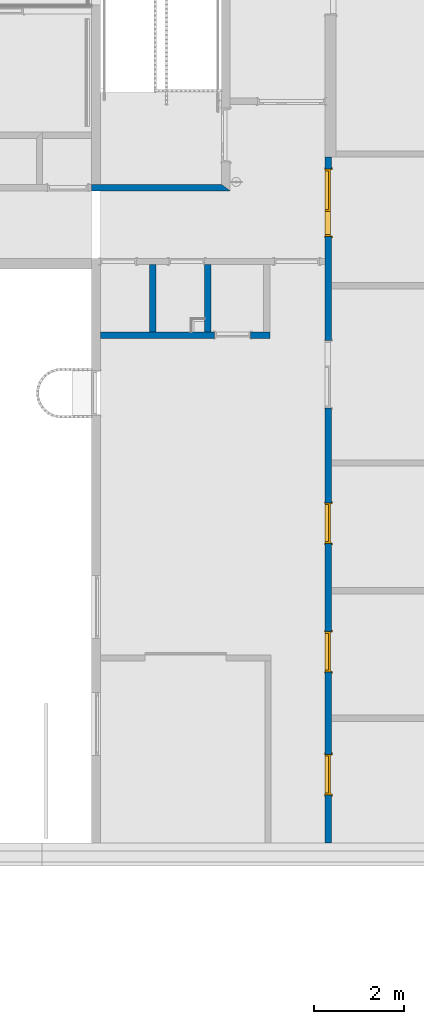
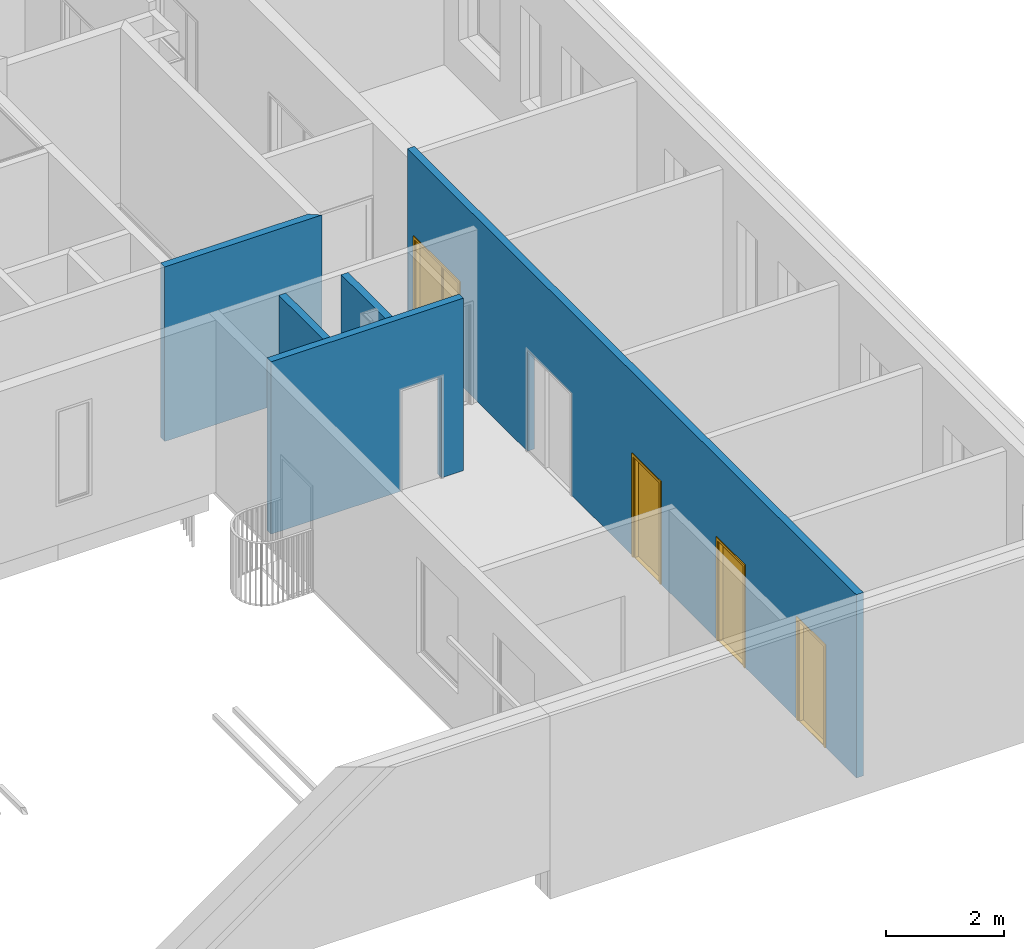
# One storey, part 9 of 100: 5 walls, 4 doors, 6 openings.
"""IFC2X3 building model written with IfcOpenShell, lengths in millimetres."""

from ifc_helpers import new_model, entity, si_unit, converted_unit, derived_unit, money_unit, direction, frame, origin_with_axes, origin_2d_with_axis, place, context, subcontext, project, spatial, polyline, rectangle, outline, extrude, open_shell, faceted_brep, surface_model, source, transform, mapped, material, layer, layer_set, layer_usage, type_object, element, fill, save


model = new_model("IFC2X3")

# Units and contexts
model_context = context("Model", 3, precision=0.01, world=origin_with_axes(), true_north=direction((0.0, 1.0)))
body_context = subcontext(model_context, "Body", "Model", "MODEL_VIEW")
ifc_project = project(units=[si_unit("LENGTHUNIT", "METRE", prefix="MILLI"), si_unit("AREAUNIT", "SQUARE_METRE"), si_unit("VOLUMEUNIT", "CUBIC_METRE"), converted_unit("PLANEANGLEUNIT", "DEGREE", entity("IfcPlaneAngleMeasure", 0.0174532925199), si_unit("PLANEANGLEUNIT", "RADIAN"), dimensions=[0, 0, 0, 0, 0, 0, 0]), si_unit("SOLIDANGLEUNIT", "STERADIAN"), money_unit("EUR"), converted_unit("TIMEUNIT", "Year", entity("IfcTimeMeasure", 31556926.0), si_unit("TIMEUNIT", "SECOND"), dimensions=[0, 0, 1, 0, 0, 0, 0]), si_unit("MASSUNIT", "GRAM", prefix="KILO"), si_unit("THERMODYNAMICTEMPERATUREUNIT", "DEGREE_CELSIUS"), si_unit("LUMINOUSINTENSITYUNIT", "LUMEN"), si_unit("ENERGYUNIT", "JOULE", prefix="MEGA"), derived_unit("THERMALCONDUCTANCEUNIT", [(si_unit("POWERUNIT", "WATT"), 1), (si_unit("LENGTHUNIT", "METRE"), -1), (si_unit("THERMODYNAMICTEMPERATUREUNIT", "KELVIN"), -1)]), derived_unit("SPECIFICHEATCAPACITYUNIT", [(si_unit("ENERGYUNIT", "JOULE"), 1), (si_unit("MASSUNIT", "GRAM", prefix="KILO"), -1), (si_unit("THERMODYNAMICTEMPERATUREUNIT", "KELVIN"), -1)]), derived_unit("MASSDENSITYUNIT", [(si_unit("MASSUNIT", "GRAM", prefix="KILO"), 1), (si_unit("VOLUMEUNIT", "CUBIC_METRE"), -1)])], contexts=[model_context])

# Site, building, storey
site_placement = place(None, origin_with_axes())
site = spatial("IfcSite", under=ifc_project, at=site_placement, Name="Politse- ja Piirivalveameti ning Päästeameti ühishoone", CompositionType="ELEMENT")
building_placement = place(site_placement, origin_with_axes())
building = spatial("IfcBuilding", under=site, at=building_placement, Name="Politse- ja Piirivalveameti ning Päästeameti ühishoone", CompositionType="ELEMENT")
storey_placement = place(building_placement, frame((0.0, 0.0, 3800.0), z_axis=(0.0, 0.0, 1.0), x_axis=(1.0, 0.0, 0.0)))
storey = spatial("IfcBuildingStorey", under=building, at=storey_placement, Name="Teine korrus", CompositionType="ELEMENT", Elevation=3800.0)

# Wall, opening
ifc_material = material(Name="KON-05_Betoon Plokk - Konstuktsioon")
ifc_layer = layer(ifc_material, 140.0, ventilated="UNKNOWN")
ifc_layer_set = layer_set([ifc_layer], Name="SS-02_Sisesein 140")
ifc_layer_usage_1 = layer_usage(ifc_layer_set, "AXIS2", "NEGATIVE", 0.0)
wall_type = type_object("IfcWallType", Name="SS-02_Sisesein 140 140", PredefinedType="NOTDEFINED")
wall_1_placement = place(storey_placement, frame((60160.5519118, 11360.0198611, 0.0), z_axis=(0.0, 0.0, 1.0), x_axis=(1.0, 0.0, 0.0)))
wall_1 = element("IfcWallStandardCase", 1, at=wall_1_placement, inside=storey, type_object=wall_type, material=ifc_layer_usage_1, Name="SS-02", context=body_context, shape_type="SweptSolid", body=[
    extrude(outline(polyline([(0.0, -140.0), (3774.67926639, -140.0), (3774.67926639, 0.0), (0.0, 0.0), (0.0, -140.0)])), origin_with_axes(), (0.0, 0.0, 1.0), 3575.0),
])
opening_1_placement = place(wall_1_placement, frame((2944.91759723, 0.0, 0.0), z_axis=(0.0, 0.0, 1.0), x_axis=(1.0, 0.0, 0.0)))
element("IfcOpeningElement", 2, at=opening_1_placement, cuts=wall_1, Name="SU-02-1", context=body_context, shape_type="SweptSolid", body=[
    extrude(rectangle(XDim=800.0, YDim=2100.0, at=origin_2d_with_axis()), frame((0.0, -140.0, 1050.0), z_axis=(0.0, 1.0, 0.0), x_axis=(-1.0, 0.0, 0.0)), (0.0, 0.0, 1.0), 420.0),
    extrude(rectangle(XDim=874.0, YDim=2137.0, at=origin_2d_with_axis()), frame((0.0, -140.0, 1068.5), z_axis=(0.0, 1.0, 0.0), x_axis=(-1.0, 0.0, 0.0)), (0.0, 0.0, -1.0), 140.0),
    extrude(rectangle(XDim=874.0, YDim=2137.0, at=origin_2d_with_axis()), frame((0.0, 0.0, 1068.5), z_axis=(0.0, -1.0, 0.0), x_axis=(-1.0, 0.0, 0.0)), (0.0, 0.0, -1.0), 140.0),
])

# Walls
ifc_layer_usage_2 = layer_usage(ifc_layer_set, "AXIS2", "POSITIVE", 0.0)
wall_2_placement = place(storey_placement, frame((61260.5519118, 13000.0198611, 0.0), z_axis=(0.0, 0.0, 1.0), x_axis=(0.0, -1.0, 0.0)))
element("IfcWallStandardCase", 3, at=wall_2_placement, inside=storey, type_object=wall_type, material=ifc_layer_usage_2, Name="SS-02", context=body_context, shape_type="SweptSolid", body=[
    extrude(outline(polyline([(140.0, 0.0), (1640.0, 0.0), (1640.0, 140.0), (140.0, 140.0), (140.0, 0.0)])), origin_with_axes(), (0.0, 0.0, 1.0), 3575.0),
])
ifc_layer_usage_3 = layer_usage(ifc_layer_set, "AXIS2", "POSITIVE", 0.0)
wall_3_placement = place(storey_placement, frame((62483.2480796, 13000.0198611, 0.0), z_axis=(0.0, 0.0, 1.0), x_axis=(0.0, -1.0, 0.0)))
element("IfcWallStandardCase", 4, at=wall_3_placement, inside=storey, type_object=wall_type, material=ifc_layer_usage_3, Name="SS-02", context=body_context, shape_type="SweptSolid", body=[
    extrude(outline(polyline([(140.0, 0.0), (1640.0, 0.0), (1640.0, 140.0), (140.0, 140.0), (140.0, 0.0)])), origin_with_axes(), (0.0, 0.0, 1.0), 3575.0),
])

# Wall, openings, doors
ifc_layer_usage_4 = layer_usage(ifc_layer_set, "AXIS2", "POSITIVE", 0.0)
wall_4_placement = place(storey_placement, frame((65160.5595507, 15250.0421528, 0.0), z_axis=(0.0, 0.0, 1.0), x_axis=(0.0, -1.0, 0.0)))
wall_4 = element("IfcWallStandardCase", 5, at=wall_4_placement, inside=storey, type_object=wall_type, material=ifc_layer_usage_4, Name="SS-02", context=body_context, shape_type="SweptSolid", body=[
    extrude(outline(polyline([(0.0, 0.0), (15250.0421528, 0.0), (15250.0421528, 140.0), (0.0, 140.0), (0.0, 0.0)])), origin_with_axes(), (0.0, 0.0, 1.0), 3800.0),
])
opening_2_placement = place(wall_4_placement, frame((1014.42866517, 0.0, 0.0), z_axis=(0.0, 0.0, 1.0), x_axis=(1.0, 0.0, 0.0)))
opening_2 = element("IfcOpeningElement", 6, at=opening_2_placement, cuts=wall_4, Name="SU-02-5", context=body_context, shape_type="SweptSolid", body=[
    extrude(rectangle(XDim=1500.0, YDim=2100.0, at=origin_2d_with_axis()), frame((0.0, 140.0, 1050.0), z_axis=(0.0, 1.0, 0.0), x_axis=(-1.0, 0.0, 0.0)), (0.0, 0.0, -1.0), 420.0),
    extrude(rectangle(XDim=1574.0, YDim=2137.0, at=origin_2d_with_axis()), frame((0.0, 140.0, 1068.5), z_axis=(0.0, 1.0, 0.0), x_axis=(-1.0, 0.0, 0.0)), (0.0, 0.0, 1.0), 140.0),
    extrude(rectangle(XDim=1574.0, YDim=2137.0, at=origin_2d_with_axis()), frame((0.0, 0.0, 1068.5), z_axis=(0.0, -1.0, 0.0), x_axis=(-1.0, 0.0, 0.0)), (0.0, 0.0, 1.0), 140.0),
])
opening_3_placement = place(wall_4_placement, frame((11000.3706528, 0.0, 0.0), z_axis=(0.0, 0.0, 1.0), x_axis=(1.0, 0.0, 0.0)))
opening_3 = element("IfcOpeningElement", 7, at=opening_3_placement, cuts=wall_4, Name="SU-02-2", context=body_context, shape_type="SweptSolid", body=[
    extrude(rectangle(XDim=900.0, YDim=2100.0, at=origin_2d_with_axis()), frame((0.0, 140.0, 1050.0), z_axis=(0.0, -1.0, 0.0), x_axis=(1.0, 0.0, 0.0)), (0.0, 0.0, 1.0), 420.0),
    extrude(rectangle(XDim=974.0, YDim=2137.0, at=origin_2d_with_axis()), frame((0.0, 140.0, 1068.5), z_axis=(0.0, -1.0, 0.0), x_axis=(1.0, 0.0, 0.0)), (0.0, 0.0, -1.0), 140.0),
    extrude(rectangle(XDim=974.0, YDim=2137.0, at=origin_2d_with_axis()), frame((0.0, 0.0, 1068.5), z_axis=(0.0, 1.0, 0.0), x_axis=(1.0, 0.0, 0.0)), (0.0, 0.0, -1.0), 140.0),
])
opening_4_placement = place(wall_4_placement, frame((13730.3806058, 0.0, 0.0), z_axis=(0.0, 0.0, 1.0), x_axis=(1.0, 0.0, 0.0)))
opening_4 = element("IfcOpeningElement", 8, at=opening_4_placement, cuts=wall_4, Name="SU-02-2", context=body_context, shape_type="SweptSolid", body=[
    extrude(rectangle(XDim=900.0, YDim=2100.0, at=origin_2d_with_axis()), frame((0.0, 140.0, 1050.0), z_axis=(0.0, -1.0, 0.0), x_axis=(1.0, 0.0, 0.0)), (0.0, 0.0, 1.0), 420.0),
    extrude(rectangle(XDim=974.0, YDim=2137.0, at=origin_2d_with_axis()), frame((0.0, 140.0, 1068.5), z_axis=(0.0, -1.0, 0.0), x_axis=(1.0, 0.0, 0.0)), (0.0, 0.0, -1.0), 140.0),
    extrude(rectangle(XDim=974.0, YDim=2137.0, at=origin_2d_with_axis()), frame((0.0, 0.0, 1068.5), z_axis=(0.0, 1.0, 0.0), x_axis=(1.0, 0.0, 0.0)), (0.0, 0.0, -1.0), 140.0),
])
opening_5_placement = place(wall_4_placement, frame((8140.14905416, 0.0, 0.0), z_axis=(0.0, 0.0, 1.0), x_axis=(1.0, 0.0, 0.0)))
opening_5 = element("IfcOpeningElement", 9, at=opening_5_placement, cuts=wall_4, Name="SU-02-2", context=body_context, shape_type="SweptSolid", body=[
    extrude(rectangle(XDim=900.0, YDim=2100.0, at=origin_2d_with_axis()), frame((0.0, 140.0, 1050.0), z_axis=(0.0, -1.0, 0.0), x_axis=(1.0, 0.0, 0.0)), (0.0, 0.0, 1.0), 420.0),
    extrude(rectangle(XDim=974.0, YDim=2137.0, at=origin_2d_with_axis()), frame((0.0, 140.0, 1068.5), z_axis=(0.0, -1.0, 0.0), x_axis=(1.0, 0.0, 0.0)), (0.0, 0.0, -1.0), 140.0),
    extrude(rectangle(XDim=974.0, YDim=2137.0, at=origin_2d_with_axis()), frame((0.0, 0.0, 1068.5), z_axis=(0.0, 1.0, 0.0), x_axis=(1.0, 0.0, 0.0)), (0.0, 0.0, -1.0), 140.0),
])
opening_6_placement = place(wall_4_placement, frame((4829.70432773, 0.0, 0.0), z_axis=(0.0, 0.0, 1.0), x_axis=(1.0, 0.0, 0.0)))
element("IfcOpeningElement", 10, at=opening_6_placement, cuts=wall_4, Name="SU-02-5", context=body_context, shape_type="SweptSolid", body=[
    extrude(rectangle(XDim=1500.0, YDim=2100.0, at=origin_2d_with_axis()), frame((0.0, 140.0, 1050.0), z_axis=(0.0, -1.0, 0.0), x_axis=(1.0, 0.0, 0.0)), (0.0, 0.0, 1.0), 420.0),
    extrude(rectangle(XDim=1574.0, YDim=2137.0, at=origin_2d_with_axis()), frame((0.0, 140.0, 1068.5), z_axis=(0.0, -1.0, 0.0), x_axis=(1.0, 0.0, 0.0)), (0.0, 0.0, -1.0), 140.0),
    extrude(rectangle(XDim=1574.0, YDim=2137.0, at=origin_2d_with_axis()), frame((0.0, 0.0, 1068.5), z_axis=(0.0, 1.0, 0.0), x_axis=(1.0, 0.0, 0.0)), (0.0, 0.0, -1.0), 140.0),
])
door_style_1 = type_object("IfcDoorStyle", Name="Door 23", ConstructionType="NOTDEFINED", OperationType="SINGLE_SWING_RIGHT", ParameterTakesPrecedence=False, Sizeable=False)
shared_shape_1 = source(origin_with_axes(), body_context, "Body", "Brep", [
    faceted_brep([(410.0, -115.0, 0.0), (410.0, -40.0, 0.0), (410.0, -40.0, 12.0), (410.0, -115.0, 12.0), (-410.0, -115.0, 0.0), (-410.0, -40.0, 0.0), (-422.0, -40.0, 0.0), (422.0, -40.0, 0.0), (422.0, -40.0, 12.0), (-422.0, -40.0, 12.0), (-410.0, -40.0, 12.0), (-410.0, -115.0, 12.0)], [[[0, 1, 2, 3]], [[0, 4, 5, 6, 7, 1]], [[1, 7, 8, 2]], [[3, 2, 8, 9, 10, 11]], [[4, 0, 3, 11]], [[5, 4, 11, 10]], [[6, 5, 10, 9]], [[7, 6, 9, 8]]]),
    faceted_brep([(-450.0, 0.0, 0.0), (-450.0, 25.0, 0.0), (-425.0, 25.0, 0.0), (-425.0, 0.0, 0.0), (-450.0, 0.0, 2100.0), (-450.0, 25.0, 2100.0), (-425.0, 25.0, 2075.0), (-425.0, 0.0, 2075.0)], [[[0, 1, 2, 3]], [[4, 5, 1, 0]], [[1, 5, 6, 2]], [[3, 2, 6, 7]], [[0, 3, 7, 4]], [[7, 6, 5, 4]]]),
    faceted_brep([(450.0, 0.0, 2100.0), (450.0, 25.0, 2100.0), (425.0, 25.0, 2075.0), (425.0, 0.0, 2075.0), (450.0, 0.0, 0.0), (450.0, 25.0, 0.0), (425.0, 25.0, 0.0), (425.0, 0.0, 0.0)], [[[0, 1, 2, 3]], [[4, 5, 1, 0]], [[1, 5, 6, 2]], [[3, 2, 6, 7]], [[0, 3, 7, 4]], [[7, 6, 5, 4]]]),
    faceted_brep([(-425.0, 0.0, 2075.0), (-425.0, 25.0, 2075.0), (425.0, 25.0, 2075.0), (425.0, 0.0, 2075.0), (-450.0, 0.0, 2100.0), (-450.0, 25.0, 2100.0), (450.0, 25.0, 2100.0), (450.0, 0.0, 2100.0)], [[[0, 1, 2, 3]], [[4, 5, 1, 0]], [[1, 5, 6, 2]], [[3, 2, 6, 7]], [[0, 3, 7, 4]], [[7, 6, 5, 4]]]),
    faceted_brep([(-487.0, 44.0, 0.0), (-437.0, 44.0, 0.0), (-437.0, 25.0, 0.0), (-487.0, 25.0, 0.0), (-487.0, 44.0, 2137.0), (-437.0, 44.0, 2087.0), (-437.0, 25.0, 2087.0), (-487.0, 25.0, 2137.0)], [[[0, 1, 2, 3]], [[0, 4, 5, 1]], [[1, 5, 6, 2]], [[3, 2, 6, 7]], [[4, 0, 3, 7]], [[5, 4, 7, 6]]]),
    faceted_brep([(487.0, 44.0, 2137.0), (437.0, 44.0, 2087.0), (437.0, 25.0, 2087.0), (487.0, 25.0, 2137.0), (487.0, 44.0, 0.0), (437.0, 44.0, 0.0), (437.0, 25.0, 0.0), (487.0, 25.0, 0.0)], [[[0, 1, 2, 3]], [[0, 4, 5, 1]], [[1, 5, 6, 2]], [[3, 2, 6, 7]], [[4, 0, 3, 7]], [[5, 4, 7, 6]]]),
    faceted_brep([(-487.0, 44.0, 2137.0), (-437.0, 44.0, 2087.0), (-437.0, 25.0, 2087.0), (-487.0, 25.0, 2137.0), (487.0, 44.0, 2137.0), (437.0, 44.0, 2087.0), (437.0, 25.0, 2087.0), (487.0, 25.0, 2137.0)], [[[0, 1, 2, 3]], [[0, 4, 5, 1]], [[1, 5, 6, 2]], [[3, 2, 6, 7]], [[4, 0, 3, 7]], [[5, 4, 7, 6]]]),
    faceted_brep([(-487.0, -134.0, 0.0), (-487.0, -115.0, 0.0), (-437.0, -115.0, 0.0), (-437.0, -134.0, 0.0), (-487.0, -134.0, 2137.0), (-487.0, -115.0, 2137.0), (-437.0, -115.0, 2087.0), (-437.0, -134.0, 2087.0)], [[[0, 1, 2, 3]], [[4, 5, 1, 0]], [[1, 5, 6, 2]], [[3, 2, 6, 7]], [[0, 3, 7, 4]], [[7, 6, 5, 4]]]),
    faceted_brep([(487.0, -134.0, 2137.0), (487.0, -115.0, 2137.0), (437.0, -115.0, 2087.0), (437.0, -134.0, 2087.0), (487.0, -134.0, 0.0), (487.0, -115.0, 0.0), (437.0, -115.0, 0.0), (437.0, -134.0, 0.0)], [[[0, 1, 2, 3]], [[4, 5, 1, 0]], [[1, 5, 6, 2]], [[3, 2, 6, 7]], [[0, 3, 7, 4]], [[7, 6, 5, 4]]]),
    faceted_brep([(-487.0, -134.0, 2137.0), (-487.0, -115.0, 2137.0), (-437.0, -115.0, 2087.0), (-437.0, -134.0, 2087.0), (487.0, -134.0, 2137.0), (487.0, -115.0, 2137.0), (437.0, -115.0, 2087.0), (437.0, -134.0, 2087.0)], [[[0, 1, 2, 3]], [[4, 5, 1, 0]], [[1, 5, 6, 2]], [[3, 2, 6, 7]], [[0, 3, 7, 4]], [[7, 6, 5, 4]]]),
    faceted_brep([(-410.0, -40.0, 0.0), (-410.0, -40.0, 2060.0), (-410.0, -115.0, 2060.0), (-410.0, -115.0, 0.0), (-422.0, -40.0, 2060.0), (-422.0, -40.0, 0.0), (-422.0, 0.0, 2060.0), (-450.0, 0.0, 2060.0), (-450.0, -115.0, 2060.0), (-450.0, -115.0, 0.0), (-450.0, 0.0, 0.0), (-422.0, 0.0, 0.0)], [[[0, 1, 2, 3]], [[4, 1, 0, 5]], [[4, 6, 7, 8, 2, 1]], [[3, 2, 8, 9]], [[5, 0, 3, 9, 10, 11]], [[6, 4, 5, 11]], [[6, 11, 10, 7]], [[10, 9, 8, 7]]]),
    faceted_brep([(422.0, -40.0, 2060.0), (410.0, -40.0, 2060.0), (410.0, -115.0, 2060.0), (450.0, -115.0, 2060.0), (450.0, 0.0, 2060.0), (422.0, 0.0, 2060.0), (422.0, -40.0, 0.0), (410.0, -40.0, 0.0), (410.0, -115.0, 0.0), (450.0, -115.0, 0.0), (450.0, 0.0, 0.0), (422.0, 0.0, 0.0)], [[[0, 1, 2, 3, 4, 5]], [[1, 0, 6, 7]], [[1, 7, 8, 2]], [[3, 2, 8, 9]], [[4, 3, 9, 10]], [[11, 5, 4, 10]], [[0, 5, 11, 6]], [[6, 11, 10, 9, 8, 7]]]),
    faceted_brep([(-422.0, 0.0, 2072.0), (-422.0, 0.0, 2060.0), (-450.0, 0.0, 2060.0), (-450.0, 0.0, 2100.0), (450.0, 0.0, 2100.0), (450.0, 0.0, 2060.0), (422.0, 0.0, 2060.0), (422.0, 0.0, 2072.0), (-422.0, -40.0, 2072.0), (-422.0, -40.0, 2060.0), (-410.0, -40.0, 2060.0), (-410.0, -115.0, 2060.0), (-450.0, -115.0, 2060.0), (-450.0, -115.0, 2100.0), (450.0, -115.0, 2100.0), (450.0, -115.0, 2060.0), (422.0, -40.0, 2060.0), (410.0, -115.0, 2060.0), (410.0, -40.0, 2060.0), (422.0, -40.0, 2072.0)], [[[0, 1, 2, 3, 4, 5, 6, 7]], [[1, 0, 8, 9]], [[9, 10, 11, 12, 2, 1]], [[2, 12, 13, 3]], [[3, 13, 14, 4]], [[4, 14, 15, 5]], [[16, 6, 5, 15, 17, 18]], [[7, 6, 16, 19]], [[0, 7, 19, 8]], [[16, 18, 10, 9, 8, 19]], [[10, 18, 17, 11]], [[17, 15, 14, 13, 12, 11]]]),
    faceted_brep([(422.0, 0.0, 0.0), (422.0, -40.0, 0.0), (-422.0, -40.0, 0.0), (-422.0, 0.0, 0.0), (422.0, 0.0, 2072.0), (422.0, -40.0, 2072.0), (-422.0, -40.0, 2072.0), (-422.0, 0.0, 2072.0)], [[[0, 1, 2, 3]], [[4, 5, 1, 0]], [[1, 5, 6, 2]], [[3, 2, 6, 7]], [[0, 3, 7, 4]], [[7, 6, 5, 4]]]),
])
door_1_placement = place(opening_3_placement, frame((-450.0, 0.0, 0.0), z_axis=(0.0, 0.0, 1.0), x_axis=(1.0, 0.0, 0.0)))
door_1 = element("IfcDoor", 11, at=door_1_placement, inside=storey, type_object=door_style_1, Name="SU-02-2", ObjectType="DOOR", OverallHeight=2100.0, OverallWidth=900.0, context=body_context, shape_type="MappedRepresentation", body=[
    mapped(shared_shape_1, transform((450.0, 115.0, 0.0))),
])
fill(opening_3, door_1)
door_2_placement = place(opening_4_placement, frame((-450.0, 0.0, 0.0), z_axis=(0.0, 0.0, 1.0), x_axis=(1.0, 0.0, 0.0)))
door_2 = element("IfcDoor", 12, at=door_2_placement, inside=storey, type_object=door_style_1, Name="SU-02-2", ObjectType="DOOR", OverallHeight=2100.0, OverallWidth=900.0, context=body_context, shape_type="MappedRepresentation", body=[
    mapped(shared_shape_1, transform((450.0, 115.0, 0.0))),
])
fill(opening_4, door_2)
door_3_placement = place(opening_5_placement, frame((-450.0, 0.0, 0.0), z_axis=(0.0, 0.0, 1.0), x_axis=(1.0, 0.0, 0.0)))
door_3 = element("IfcDoor", 13, at=door_3_placement, inside=storey, type_object=door_style_1, Name="SU-02-2", ObjectType="DOOR", OverallHeight=2100.0, OverallWidth=900.0, context=body_context, shape_type="MappedRepresentation", body=[
    mapped(shared_shape_1, transform((450.0, 115.0, 0.0))),
])
fill(opening_5, door_3)
door_style_2 = type_object("IfcDoorStyle", Name="Door with Sidelight on Side 2 23", ConstructionType="NOTDEFINED", OperationType="NOTDEFINED", ParameterTakesPrecedence=False, Sizeable=False)
shared_shape_2 = source(origin_with_axes(), body_context, "Body", "SurfaceModel", [
    faceted_brep([(-710.0, -115.0, 0.0), (-710.0, -115.0, 12.0), (-710.0, -40.0, 12.0), (-710.0, -40.0, 0.0), (150.0, -115.0, 0.0), (150.0, -115.0, 12.0), (150.0, -40.0, 12.0), (162.0, -40.0, 12.0), (-722.0, -40.0, 12.0), (-722.0, -40.0, 0.0), (162.0, -40.0, 0.0), (150.0, -40.0, 0.0)], [[[0, 1, 2, 3]], [[4, 5, 1, 0]], [[1, 5, 6, 7, 8, 2]], [[3, 2, 8, 9]], [[0, 3, 9, 10, 11, 4]], [[11, 6, 5, 4]], [[10, 7, 6, 11]], [[9, 8, 7, 10]]]),
    faceted_brep([(750.0, 0.0, 0.0), (725.0, 0.0, 0.0), (725.0, 25.0, 0.0), (750.0, 25.0, 0.0), (750.0, 0.0, 2100.0), (725.0, 0.0, 2075.0), (725.0, 25.0, 2075.0), (750.0, 25.0, 2100.0)], [[[0, 1, 2, 3]], [[0, 4, 5, 1]], [[1, 5, 6, 2]], [[3, 2, 6, 7]], [[4, 0, 3, 7]], [[5, 4, 7, 6]]]),
    faceted_brep([(-750.0, 0.0, 2100.0), (-725.0, 0.0, 2075.0), (-725.0, 25.0, 2075.0), (-750.0, 25.0, 2100.0), (-750.0, 0.0, 0.0), (-725.0, 0.0, 0.0), (-725.0, 25.0, 0.0), (-750.0, 25.0, 0.0)], [[[0, 1, 2, 3]], [[0, 4, 5, 1]], [[1, 5, 6, 2]], [[3, 2, 6, 7]], [[4, 0, 3, 7]], [[5, 4, 7, 6]]]),
    faceted_brep([(725.0, 0.0, 2075.0), (-725.0, 0.0, 2075.0), (-725.0, 25.0, 2075.0), (725.0, 25.0, 2075.0), (750.0, 0.0, 2100.0), (-750.0, 0.0, 2100.0), (-750.0, 25.0, 2100.0), (750.0, 25.0, 2100.0)], [[[0, 1, 2, 3]], [[0, 4, 5, 1]], [[1, 5, 6, 2]], [[3, 2, 6, 7]], [[4, 0, 3, 7]], [[5, 4, 7, 6]]]),
    faceted_brep([(787.0, 44.0, 0.0), (787.0, 25.0, 0.0), (737.0, 25.0, 0.0), (737.0, 44.0, 0.0), (787.0, 44.0, 2137.0), (787.0, 25.0, 2137.0), (737.0, 25.0, 2087.0), (737.0, 44.0, 2087.0)], [[[0, 1, 2, 3]], [[4, 5, 1, 0]], [[1, 5, 6, 2]], [[3, 2, 6, 7]], [[0, 3, 7, 4]], [[7, 6, 5, 4]]]),
    faceted_brep([(-787.0, 44.0, 2137.0), (-787.0, 25.0, 2137.0), (-737.0, 25.0, 2087.0), (-737.0, 44.0, 2087.0), (-787.0, 44.0, 0.0), (-787.0, 25.0, 0.0), (-737.0, 25.0, 0.0), (-737.0, 44.0, 0.0)], [[[0, 1, 2, 3]], [[4, 5, 1, 0]], [[1, 5, 6, 2]], [[3, 2, 6, 7]], [[0, 3, 7, 4]], [[7, 6, 5, 4]]]),
    faceted_brep([(787.0, 44.0, 2137.0), (787.0, 25.0, 2137.0), (737.0, 25.0, 2087.0), (737.0, 44.0, 2087.0), (-787.0, 44.0, 2137.0), (-787.0, 25.0, 2137.0), (-737.0, 25.0, 2087.0), (-737.0, 44.0, 2087.0)], [[[0, 1, 2, 3]], [[4, 5, 1, 0]], [[1, 5, 6, 2]], [[3, 2, 6, 7]], [[0, 3, 7, 4]], [[7, 6, 5, 4]]]),
    faceted_brep([(787.0, -134.0, 0.0), (737.0, -134.0, 0.0), (737.0, -115.0, 0.0), (787.0, -115.0, 0.0), (787.0, -134.0, 2137.0), (737.0, -134.0, 2087.0), (737.0, -115.0, 2087.0), (787.0, -115.0, 2137.0)], [[[0, 1, 2, 3]], [[0, 4, 5, 1]], [[1, 5, 6, 2]], [[3, 2, 6, 7]], [[4, 0, 3, 7]], [[5, 4, 7, 6]]]),
    faceted_brep([(-787.0, -134.0, 2137.0), (-737.0, -134.0, 2087.0), (-737.0, -115.0, 2087.0), (-787.0, -115.0, 2137.0), (-787.0, -134.0, 0.0), (-737.0, -134.0, 0.0), (-737.0, -115.0, 0.0), (-787.0, -115.0, 0.0)], [[[0, 1, 2, 3]], [[0, 4, 5, 1]], [[1, 5, 6, 2]], [[3, 2, 6, 7]], [[4, 0, 3, 7]], [[5, 4, 7, 6]]]),
    faceted_brep([(787.0, -134.0, 2137.0), (737.0, -134.0, 2087.0), (737.0, -115.0, 2087.0), (787.0, -115.0, 2137.0), (-787.0, -134.0, 2137.0), (-737.0, -134.0, 2087.0), (-737.0, -115.0, 2087.0), (-787.0, -115.0, 2137.0)], [[[0, 1, 2, 3]], [[0, 4, 5, 1]], [[1, 5, 6, 2]], [[3, 2, 6, 7]], [[4, 0, 3, 7]], [[5, 4, 7, 6]]]),
    faceted_brep([(750.0, 0.0, 0.0), (750.0, -115.0, 0.0), (710.0, -115.0, 0.0), (710.0, 0.0, 0.0), (750.0, 0.0, 2060.0), (750.0, -115.0, 2060.0), (710.0, -115.0, 2060.0), (710.0, -115.0, 40.0), (710.0, 0.0, 40.0), (710.0, 0.0, 2060.0)], [[[0, 1, 2, 3]], [[4, 5, 1, 0]], [[1, 5, 6, 7, 2]], [[3, 2, 7, 8]], [[0, 3, 8, 9, 4]], [[9, 6, 5, 4]], [[8, 7, 6, 9]]]),
    faceted_brep([(150.0, -40.0, 0.0), (150.0, -115.0, 0.0), (150.0, -115.0, 2060.0), (150.0, -40.0, 2060.0), (162.0, -40.0, 0.0), (162.0, 0.0, 0.0), (190.0, 0.0, 0.0), (190.0, -115.0, 0.0), (190.0, -115.0, 40.0), (190.0, -115.0, 2060.0), (162.0, -40.0, 2060.0), (190.0, 0.0, 2060.0), (162.0, 0.0, 2060.0), (190.0, 0.0, 40.0)], [[[0, 1, 2, 3]], [[4, 5, 6, 7, 1, 0]], [[7, 8, 9, 2, 1]], [[10, 3, 2, 9, 11, 12]], [[10, 4, 0, 3]], [[12, 5, 4, 10]], [[12, 11, 13, 6, 5]], [[6, 13, 8, 7]], [[13, 11, 9, 8]]]),
    faceted_brep([(710.0, 0.0, 40.0), (710.0, -115.0, 40.0), (710.0, -115.0, 0.0), (710.0, 0.0, 0.0), (190.0, 0.0, 40.0), (190.0, -115.0, 40.0), (190.0, -115.0, 0.0), (190.0, 0.0, 0.0)], [[[0, 1, 2, 3]], [[4, 5, 1, 0]], [[1, 5, 6, 2]], [[3, 2, 6, 7]], [[0, 3, 7, 4]], [[7, 6, 5, 4]]]),
    faceted_brep([(-722.0, -40.0, 2060.0), (-722.0, 0.0, 2060.0), (-750.0, 0.0, 2060.0), (-750.0, -115.0, 2060.0), (-710.0, -115.0, 2060.0), (-710.0, -40.0, 2060.0), (-722.0, -40.0, 0.0), (-722.0, 0.0, 0.0), (-750.0, 0.0, 0.0), (-750.0, -115.0, 0.0), (-710.0, -115.0, 0.0), (-710.0, -40.0, 0.0)], [[[0, 1, 2, 3, 4, 5]], [[0, 6, 7, 1]], [[7, 8, 2, 1]], [[2, 8, 9, 3]], [[3, 9, 10, 4]], [[5, 4, 10, 11]], [[5, 11, 6, 0]], [[6, 11, 10, 9, 8, 7]]]),
    faceted_brep([(162.0, 0.0, 2072.0), (-722.0, 0.0, 2072.0), (-722.0, 0.0, 2060.0), (-750.0, 0.0, 2060.0), (-750.0, 0.0, 2100.0), (750.0, 0.0, 2100.0), (750.0, 0.0, 2060.0), (710.0, 0.0, 2060.0), (190.0, 0.0, 2060.0), (162.0, 0.0, 2060.0), (162.0, -40.0, 2072.0), (-722.0, -40.0, 2072.0), (-722.0, -40.0, 2060.0), (-710.0, -40.0, 2060.0), (-710.0, -115.0, 2060.0), (-750.0, -115.0, 2060.0), (-750.0, -115.0, 2100.0), (750.0, -115.0, 2100.0), (750.0, -115.0, 2060.0), (710.0, -115.0, 2060.0), (190.0, -115.0, 2060.0), (162.0, -40.0, 2060.0), (150.0, -115.0, 2060.0)], [[[0, 1, 2, 3, 4, 5, 6, 7, 8, 9]], [[0, 10, 11, 1]], [[1, 11, 12, 2]], [[12, 13, 14, 15, 3, 2]], [[4, 3, 15, 16]], [[5, 4, 16, 17]], [[6, 5, 17, 18]], [[7, 6, 18, 19]], [[8, 7, 19, 20]], [[21, 9, 8, 20, 22, 14, 13]], [[9, 21, 10, 0]], [[12, 11, 10, 21, 13]], [[14, 22, 20, 19, 18, 17, 16, 15]]]),
    faceted_brep([(-722.0, 0.0, 0.0), (162.0, 0.0, 0.0), (162.0, -40.0, 0.0), (-722.0, -40.0, 0.0), (-722.0, 0.0, 2072.0), (162.0, 0.0, 2072.0), (162.0, -40.0, 2072.0), (-722.0, -40.0, 2072.0)], [[[0, 1, 2, 3]], [[0, 4, 5, 1]], [[1, 5, 6, 2]], [[3, 2, 6, 7]], [[4, 0, 3, 7]], [[5, 4, 7, 6]]]),
    surface_model("IfcShellBasedSurfaceModel", [(710.0, -91.0, 40.0), (190.0, -91.0, 40.0), (190.0, -91.0, 2060.0), (710.0, -91.0, 2060.0)], [open_shell([[[0, 1, 2, 3]]])]),
    surface_model("IfcShellBasedSurfaceModel", [(710.0, -103.0, 40.0), (710.0, -103.0, 2060.0), (190.0, -103.0, 2060.0), (190.0, -103.0, 40.0)], [open_shell([[[0, 1, 2, 3]]])]),
])
door_4_placement = place(opening_2_placement, frame((-750.0, 0.0, 0.0), z_axis=(0.0, 0.0, 1.0), x_axis=(1.0, 0.0, 0.0)))
door_4 = element("IfcDoor", 14, at=door_4_placement, inside=storey, type_object=door_style_2, Name="SU-02-5", ObjectType="DOOR", OverallHeight=2100.0, OverallWidth=1500.0, context=body_context, shape_type="MappedRepresentation", body=[
    mapped(shared_shape_2, transform((750.0, 115.0, 0.0))),
])
fill(opening_2, door_4)

# Wall
ifc_layer_usage_5 = layer_usage(ifc_layer_set, "AXIS2", "NEGATIVE", 140.0)
wall_5_placement = place(storey_placement, frame((59970.5519118, 14500.0421528, 0.0), z_axis=(0.0, 0.0, 1.0), x_axis=(1.0, 0.0, 0.0)))
element("IfcWallStandardCase", 15, at=wall_5_placement, inside=storey, type_object=wall_type, material=ifc_layer_usage_5, Name="SS-02", context=body_context, shape_type="SweptSolid", body=[
    extrude(outline(polyline([(0.0, 0.0), (3080.00534722, 0.0), (2890.00534722, 140.0), (0.0, 140.0), (0.0, 0.0)])), origin_with_axes(), (0.0, 0.0, 1.0), 3620.0),
])

save(model, "model.ifc")
